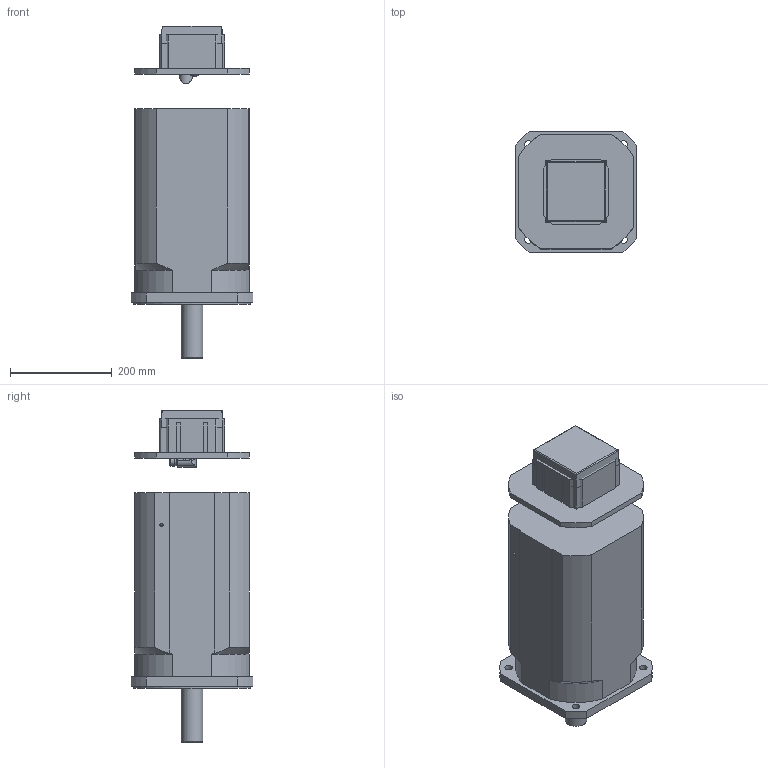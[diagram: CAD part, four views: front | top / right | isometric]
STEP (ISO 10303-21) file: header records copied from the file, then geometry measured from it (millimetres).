
FILE_DESCRIPTION(/* description */ ('Alibre Inc.'),/* implementation_level */ '2;1');
FILE_NAME(/* name */ 'export0',/* time_stamp */ '2011-10-25T13:38:43+02:00',/* author */ (''),/* organization */ (''),/* preprocessor_version */ 'ST-DEVELOPER v12',/* originating_system */ 'Alibre',/* authorisation */ '');
FILE_SCHEMA (('ALIBRE_SCHEMA','CONFIG_CONTROL_DESIGN'));
Length unit declared in the file: millimetre
Products named in the file (8): ID_1
Bounding box: 240 x 240 x 653.5 mm (x, y, z)
Volume: 20973737.4 mm3; surface area: 700954.7 mm2
Topology: 7 solids, 7 shells, 264 faces, 681 edges, 441 vertices
Faces by surface type: plane 123, cylinder 107, torus 15, cone 14, bspline 5
Full cylindrical faces by diameter (mm): 2.7 x4, 6.647 x3, 10.106 x1, 15 x5, 20 x6, 22 x2, 25 x2, 26.75 x1, 30 x2, 42 x1, 45 x1, 230 x1
Entity records: 26942 total; most frequent: CARTESIAN_POINT 6353, DIRECTION 3195, ORIENTED_EDGE 3142, EDGE_CURVE 1571, AXIS2_PLACEMENT_3D 1291, VERTEX_POINT 1099, VECTOR 952, LINE 893
